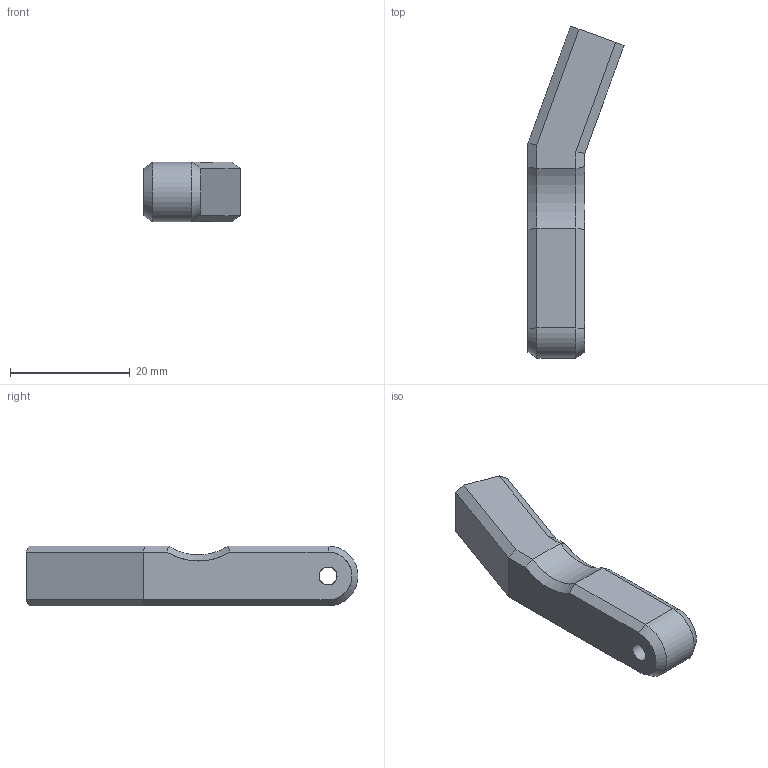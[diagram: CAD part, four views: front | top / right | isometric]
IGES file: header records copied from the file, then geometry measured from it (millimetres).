
Global section: file name: C:\Users\gehrichcr\Documents\1 Drive Backup\Practice\Inspire\V1.5\IGES\Boom Rod Linkage 20Deg R.igs; native system: NX V8.5; preprocessor: SIEMENS PLM Software NX 8.5; date: 20150603.090354; units: millimetre
Bounding box: 16.05 x 55.42 x 10 mm (x, y, z)
Surface area: 2413.8 mm2 (no closed solid volume)
Topology: 0 solids, 0 shells, 27 faces, 157 edges, 154 vertices
Faces by surface type: bspline 27
